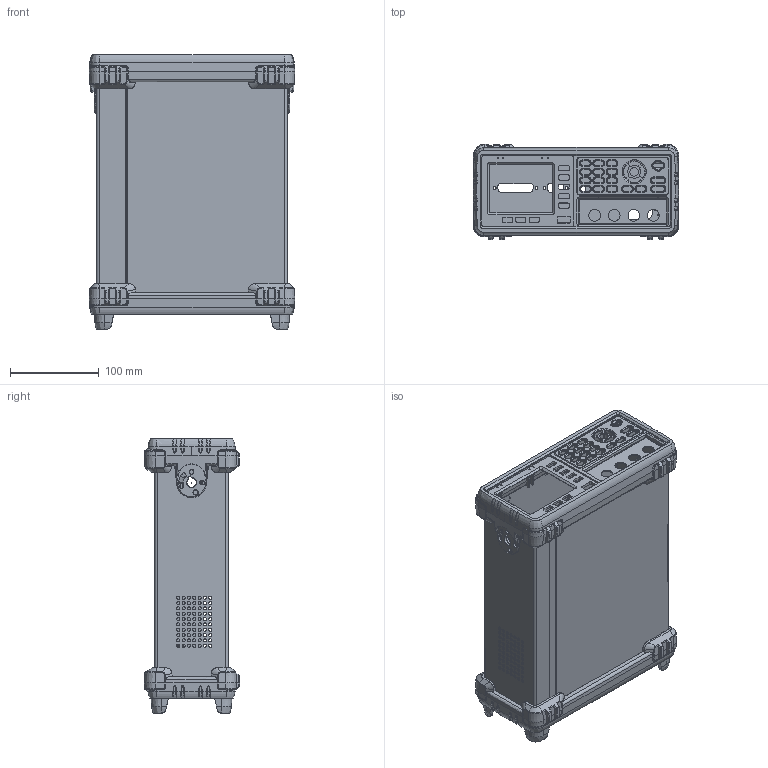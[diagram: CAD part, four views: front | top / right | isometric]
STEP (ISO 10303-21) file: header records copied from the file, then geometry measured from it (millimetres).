
FILE_DESCRIPTION (( 'STEP AP203' ), '1' );
FILE_NAME ('LCR6200.STEP', '2020-05-15T04:00:24', ( 'xhw' ), ( ' ' ), 'SwSTEP 2.0', 'SolidWorks 2020', '' );
FILE_SCHEMA (( 'CONFIG_CONTROL_DESIGN' ));
Length unit declared in the file: millimetre
Products named in the file (8): GW 綴峓遺 57rb-20g00401; LCR6200-MAIN HOLDER [臏啣2.0]_RevF; LCR6200_Case[詩啣0.8]; LCR6200_Frame_RevC; LCR6200; Rubber_Front; LCR6200-Real Panel; LCR-6200-UNK
Assembly tree (7 placements, depth 2):
  LCR6200
    LCR6200_Frame_RevC
    Rubber_Front
    LCR6200-Real Panel
    LCR-6200-UNK
    GW 綴峓遺 57rb-20g00401
    LCR6200-MAIN HOLDER [臏啣2.0]_RevF
    LCR6200_Case[詩啣0.8]
Bounding box: 231 x 107 x 308.55 mm (x, y, z)
Volume: 479379.8 mm3; surface area: 648788.6 mm2
Topology: 7 solids, 8 shells, 4071 faces, 10855 edges, 6799 vertices
Faces by surface type: plane 1788, cylinder 1172, bspline 708, cone 334, torus 69
Entity records: 166030 total; most frequent: CARTESIAN_POINT 69214, ORIENTED_EDGE 21672, DIRECTION 17269, EDGE_CURVE 10848, VERTEX_POINT 6799, LINE 5989, VECTOR 5989, AXIS2_PLACEMENT_3D 5640
